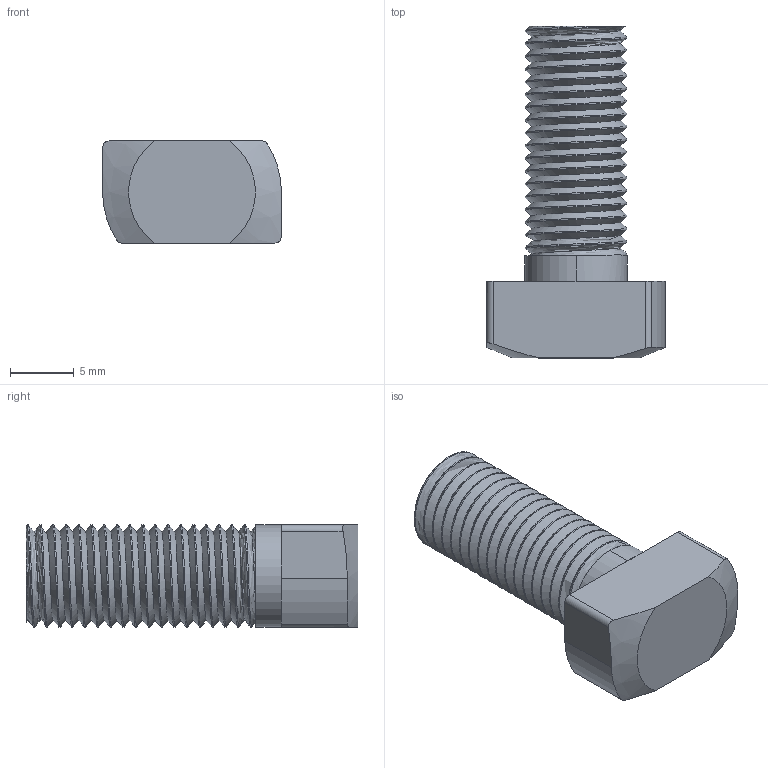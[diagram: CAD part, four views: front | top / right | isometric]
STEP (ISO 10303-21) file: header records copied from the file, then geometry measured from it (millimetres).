
FILE_DESCRIPTION (( 'STEP AP203' ), '1' );
FILE_NAME ('116-CE-TS-40G.STEP', '2015-07-09T08:47:57', ( '' ), ( '' ), 'SwSTEP 2.0', 'SolidWorks 2013', '' );
FILE_SCHEMA (( 'CONFIG_CONTROL_DESIGN' ));
Length unit declared in the file: millimetre
Products named in the file (1): 116-CE-TS-40G
Bounding box: 14 x 26 x 8 mm (x, y, z)
Volume: 1534.9 mm3; surface area: 1136.7 mm2
Topology: 1 solids, 1 shells, 57 faces, 161 edges, 106 vertices
Faces by surface type: cylinder 44, plane 9, bspline 2, cone 2
Entity records: 3901 total; most frequent: CARTESIAN_POINT 2591, ORIENTED_EDGE 322, DIRECTION 200, EDGE_CURVE 161, VERTEX_POINT 106, AXIS2_PLACEMENT_3D 72, EDGE_LOOP 57, ADVANCED_FACE 57
